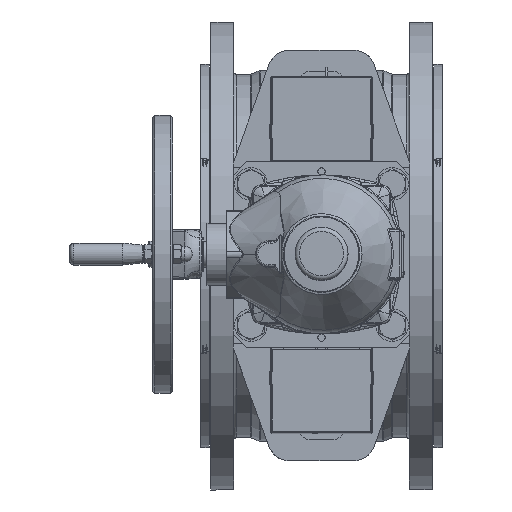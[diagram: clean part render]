
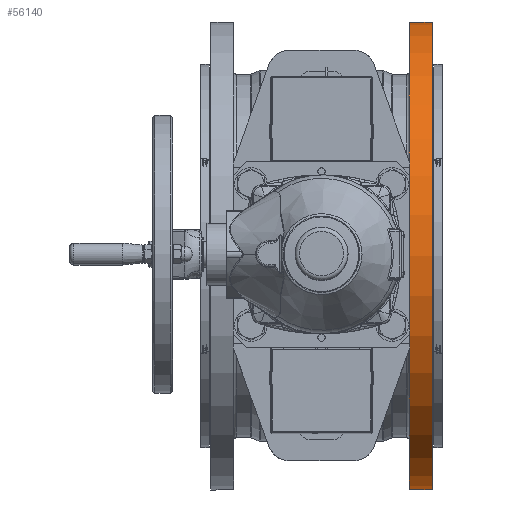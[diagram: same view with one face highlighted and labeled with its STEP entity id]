
A CAD part, top view. The second image highlights one B-rep face of the part: STEP entity #56140.
In plain terms, the highlighted cylindrical face has radius 265 mm (diameter 530 mm), a full revolution.
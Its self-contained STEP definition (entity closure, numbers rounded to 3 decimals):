
#2498=CYLINDRICAL_SURFACE('',#61571,265.);
#7554=FACE_OUTER_BOUND('',#11124,.T.);
#11124=EDGE_LOOP('',(#49034,#49035,#49036,#49037,#49038,#49039));
#14898=LINE('',#240590,#18463);
#18463=VECTOR('',#75737,265.);
#21295=CIRCLE('',#61572,265.);
#21296=CIRCLE('',#61573,265.);
#21297=CIRCLE('',#61574,265.);
#21298=CIRCLE('',#61575,265.);
#26398=VERTEX_POINT('',#240586);
#26399=VERTEX_POINT('',#240587);
#26400=VERTEX_POINT('',#240589);
#26401=VERTEX_POINT('',#240591);
#34054=EDGE_CURVE('',#26398,#26399,#21295,.T.);
#34055=EDGE_CURVE('',#26399,#26400,#14898,.T.);
#34056=EDGE_CURVE('',#26401,#26400,#21296,.T.);
#34057=EDGE_CURVE('',#26400,#26401,#21297,.T.);
#34058=EDGE_CURVE('',#26399,#26398,#21298,.T.);
#49034=ORIENTED_EDGE('',*,*,#34054,.T.);
#49035=ORIENTED_EDGE('',*,*,#34055,.T.);
#49036=ORIENTED_EDGE('',*,*,#34056,.F.);
#49037=ORIENTED_EDGE('',*,*,#34057,.F.);
#49038=ORIENTED_EDGE('',*,*,#34055,.F.);
#49039=ORIENTED_EDGE('',*,*,#34058,.T.);
#56140=ADVANCED_FACE('',(#7554),#2498,.T.);
#61571=AXIS2_PLACEMENT_3D('',#240585,#75733,#75734);
#61572=AXIS2_PLACEMENT_3D('',#240588,#75735,#75736);
#61573=AXIS2_PLACEMENT_3D('',#240592,#75738,#75739);
#61574=AXIS2_PLACEMENT_3D('',#240593,#75740,#75741);
#61575=AXIS2_PLACEMENT_3D('',#240594,#75742,#75743);
#75733=DIRECTION('center_axis',(1.,0.,0.));
#75734=DIRECTION('ref_axis',(0.,0.,
1.));
#75735=DIRECTION('center_axis',(1.,0.,0.));
#75736=DIRECTION('ref_axis',(0.,-1.,0.));
#75737=DIRECTION('',(1.,0.,0.));
#75738=DIRECTION('center_axis',(1.,0.,0.));
#75739=DIRECTION('ref_axis',(0.,-1.,0.));
#75740=DIRECTION('center_axis',(1.,0.,0.));
#75741=DIRECTION('ref_axis',(0.,-1.,0.));
#75742=DIRECTION('center_axis',(1.,0.,0.));
#75743=DIRECTION('ref_axis',(0.,-1.,0.));
#240585=CARTESIAN_POINT('Origin',(112.5,0.,0.));
#240586=CARTESIAN_POINT('',(99.5,0.,265.));
#240587=CARTESIAN_POINT('',(99.5,0.,-265.));
#240588=CARTESIAN_POINT('Origin',(99.5,0.,
0.));
#240589=CARTESIAN_POINT('',(125.5,0.,-265.));
#240590=CARTESIAN_POINT('',(112.5,0.,-265.));
#240591=CARTESIAN_POINT('',(125.5,0.,265.));
#240592=CARTESIAN_POINT('Origin',(125.5,0.,0.));
#240593=CARTESIAN_POINT('Origin',(125.5,0.,0.));
#240594=CARTESIAN_POINT('Origin',(99.5,0.,
0.));
